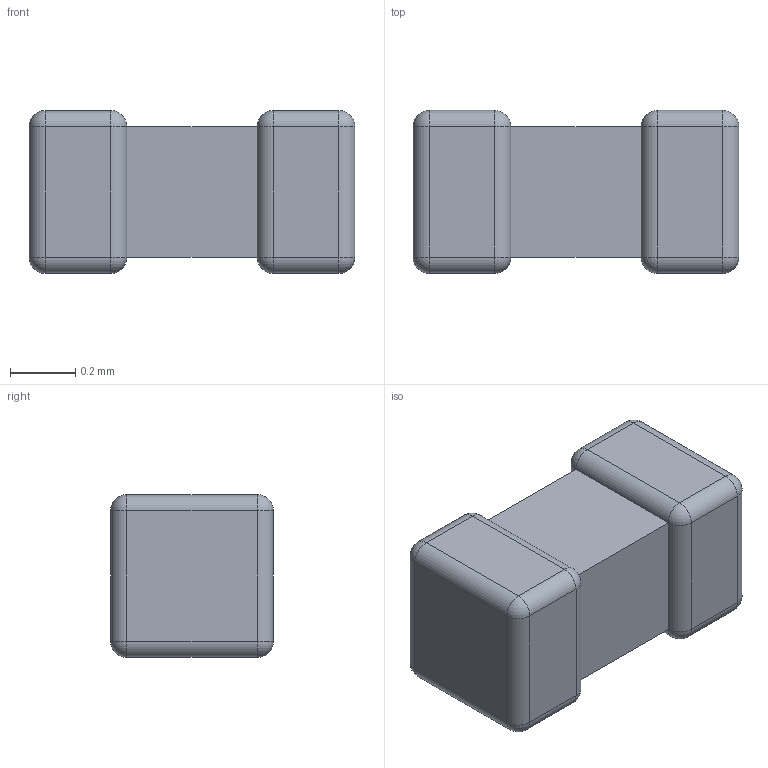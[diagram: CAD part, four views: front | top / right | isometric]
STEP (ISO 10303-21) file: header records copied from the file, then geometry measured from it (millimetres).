
FILE_DESCRIPTION(('Open CASCADE Model'),'2;1');
FILE_NAME('Open CASCADE Shape Model','2026-10-25T11:09:13',('Author'),( 'Open CASCADE'),'Open CASCADE STEP processor 8.0','Open CASCADE 8.0' ,'Unknown');
FILE_SCHEMA(('AUTOMOTIVE_DESIGN { 1 0 10303 214 1 1 1 1 }'));
Length unit declared in the file: millimetre
Products named in the file (1): Open CASCADE STEP translator 8.0 2
Bounding box: 1 x 0.5 x 0.5 mm (x, y, z)
Volume: 0.2 mm3; surface area: 2.3 mm2
Topology: 1 solids, 1 shells, 54 faces, 116 edges, 48 vertices
Faces by surface type: cylinder 24, sphere 16, plane 14
Entity records: 3254 total; most frequent: CARTESIAN_POINT 1123, DIRECTION 428, LINE 222, VECTOR 222, ORIENTED_EDGE 200, PCURVE 200, DEFINITIONAL_REPRESENTATION 200, AXIS2_PLACEMENT_3D 103
